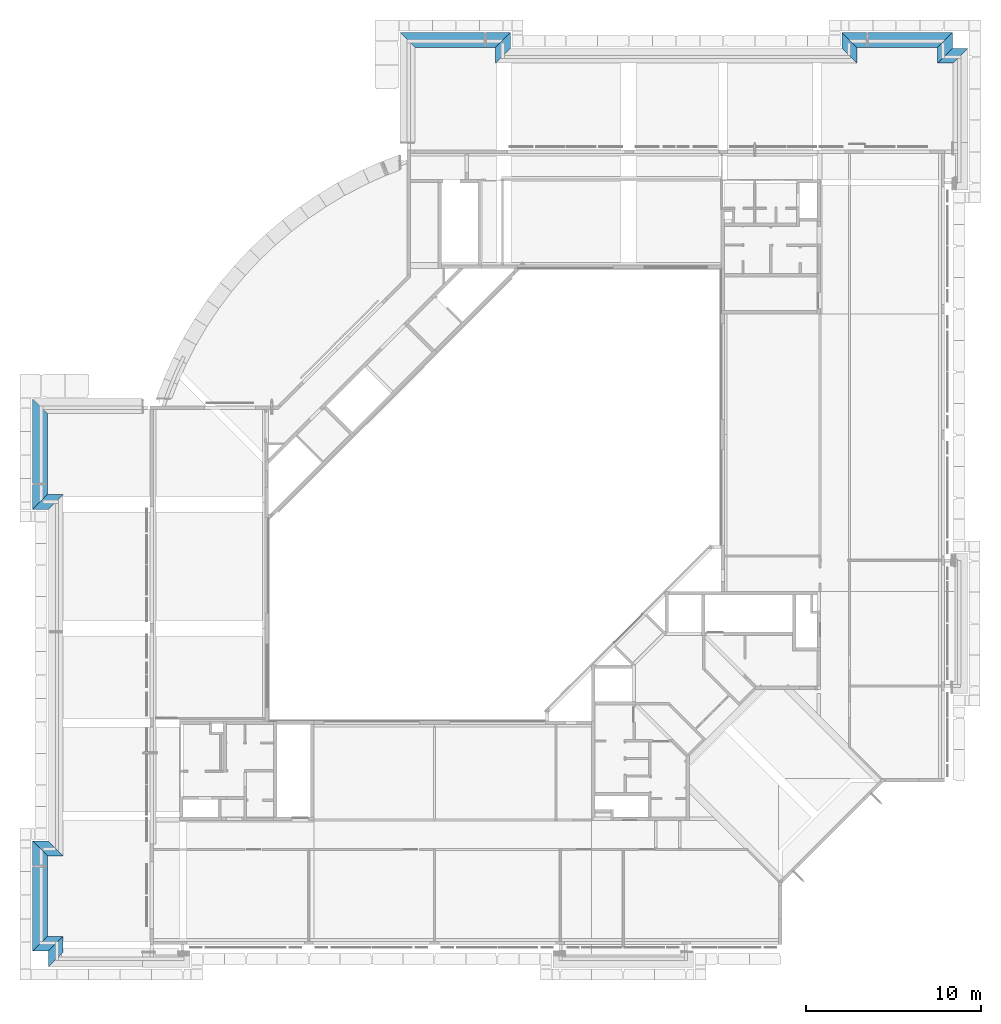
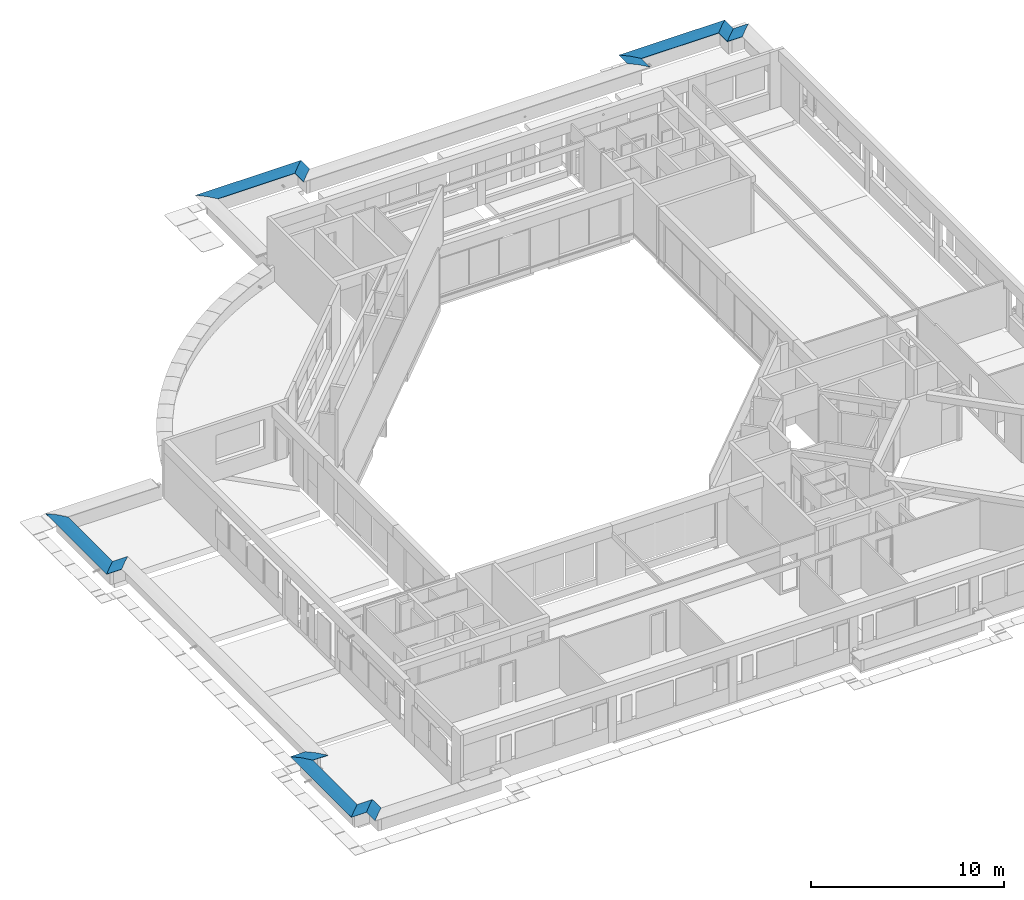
# One storey, part 18 of 38: 12 discrete accessories.
"""IFC4X3_ADD2 building model written with IfcOpenShell, lengths in millimetres."""

from ifc_helpers import new_model, si_unit, direction, frame, origin_with_axes, place, context, subcontext, project, spatial, polygons, source, transform, mapped, material, element, save


model = new_model("IFC4X3_ADD2")

# Units and contexts
model_context = context("Model", 3, precision=1e-05, world=origin_with_axes(), true_north=direction((0.0, 1.0)))
body_context = subcontext(model_context, "Body", "Model", "MODEL_VIEW")
ifc_project = project(units=[si_unit("LENGTHUNIT", "METRE", prefix="MILLI"), si_unit("AREAUNIT", "SQUARE_METRE"), si_unit("VOLUMEUNIT", "CUBIC_METRE"), si_unit("PLANEANGLEUNIT", "RADIAN"), si_unit("TIMEUNIT", "SECOND"), si_unit("MASSUNIT", "GRAM")], contexts=[model_context])

# Site, building, storey
site_placement = place(None, origin_with_axes())
site = spatial("IfcSite", under=ifc_project, at=site_placement, Name="Site", CompositionType="ELEMENT")
building_placement = place(site_placement, origin_with_axes())
building = spatial("IfcBuilding", under=site, at=building_placement, Name="IFC Building Story")
storey_placement = place(building_placement, frame((0.0, 0.0, 10800.0), z_axis=(0.0, 0.0, 1.0), x_axis=(1.0, 0.0, 0.0)))
storey = spatial("IfcBuildingStorey", under=building, at=storey_placement, Name="030", Elevation=10800.0)

# Discrete accessories
ifc_material = material(Name="BB_Metaal_Aluminium_Buitenschrijnwerk")
shared_shape_1 = source(origin_with_axes(), body_context, "Body", "Tessellation", [
    polygons([(375.000000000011, 374.999999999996, 35.1750423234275), (-46.4641064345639, -46.4641064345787, -1.6982890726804), (-31.999999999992, -32.0000000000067, -23.3944487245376), (-31.9999999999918, -32.0000000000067, -20.0000000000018), (-29.9999999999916, -30.0000000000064, -20.0000000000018), (-29.9999999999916, -30.0000000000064, -30.0000000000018), (-49.9999999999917, -50.0000000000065, -2.84559369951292e-12), (375.00000000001, 374.999999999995, 37.1826819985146), (800.000000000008, 799.999999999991, -2.84534618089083e-12), (800.000000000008, 799.999999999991, -30.0000000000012), (790.000000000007, 789.999999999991, -20.0000000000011), (791.41421356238, 791.414213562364, -18.5857864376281), (798.000000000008, 797.999999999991, -25.1715728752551), (798.000000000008, 797.999999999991, -1.83266234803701), (853.535893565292, -46.4641064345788, -1.69828907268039), (1274.99999999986, 374.999999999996, 35.1750423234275), (1697.99999999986, 797.999999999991, -1.83266234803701), (1697.99999999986, 797.999999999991, -25.1715728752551), (1691.41421356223, 791.414213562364, -18.5857864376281), (1689.99999999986, 789.999999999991, -20.0000000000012), (1699.99999999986, 799.999999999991, -30.0000000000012), (1699.99999999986, 799.999999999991, -2.84957613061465e-12), (1274.99999999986, 374.999999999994, 37.1826819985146), (849.999999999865, -50.0000000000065, -2.85704997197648e-12), (869.999999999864, -30.0000000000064, -30.0000000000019), (869.999999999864, -30.0000000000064, -20.0000000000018), (867.999999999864, -32.0000000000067, -20.0000000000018), (867.999999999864, -32.0000000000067, -23.3944487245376)], [[[3, 4, 5]], [[3, 5, 6]], [[6, 7, 2]], [[6, 2, 3]], [[7, 8, 1]], [[7, 1, 2]], [[14, 1, 8]], [[14, 8, 9]], [[9, 10, 13]], [[9, 13, 14]], [[10, 11, 12]], [[10, 12, 13]], [[18, 19, 20]], [[18, 20, 21]], [[21, 22, 17]], [[21, 17, 18]], [[22, 23, 16]], [[22, 16, 17]], [[23, 24, 15]], [[23, 15, 16]], [[28, 15, 24]], [[28, 24, 25]], [[25, 26, 28]], [[26, 27, 28]], [[2, 1, 16, 15]], [[4, 3, 28, 27]], [[3, 2, 15, 28]], [[6, 5, 26, 25]], [[8, 7, 24, 23]], [[7, 6, 25, 24]], [[9, 8, 23, 22]], [[5, 4, 27, 26]], [[1, 14, 17, 16]], [[10, 9, 22, 21]], [[11, 10, 21, 20]], [[12, 11, 20, 19]], [[13, 12, 19, 18]], [[14, 13, 18, 17]]]),
])
for number, where, z_axis, x_axis in (
    (1, (1385.0, 51150.0, 830.0), (0.0, 0.0, 1.0), (-1.0, 0.0, 0.0)),
    (2, (-5725.0, 52050.0, 830.0), (0.0, 0.0, 1.0), (0.0, -1.0, 0.0)),
):
    element("IfcDiscreteAccessory", number, at=place(storey_placement, frame(where, z_axis=z_axis, x_axis=x_axis)), inside=storey, material=ifc_material, Name="BB_05.10.23#02_AluminiumMuurafdek, 850 mm_GLI:XX_Geen", ObjectType="BB_05.10.23#02_AluminiumMuurafdek, 850 mm_GLI:XX_Geen", PredefinedType="USERDEFINED", context=body_context, shape_type="MappedRepresentation", body=[
        mapped(shared_shape_1, transform((0.0, 0.0, 0.0))),
    ])
shared_shape_2 = source(origin_with_axes(), body_context, "Body", "Tessellation", [
    polygons([(-374.999999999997, 374.999999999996, 35.1750423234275), (46.4641064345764, -46.4641064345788, -1.69828907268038), (32.0000000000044, -32.0000000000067, -23.3944487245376), (32.0000000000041, -32.0000000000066, -20.0000000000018), (30.000000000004, -30.0000000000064, -20.0000000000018), (30.0000000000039, -30.0000000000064, -30.0000000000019), (50.000000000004, -50.0000000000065, -2.85747255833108e-12), (-374.999999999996, 374.999999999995, 37.1826819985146), (-799.999999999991, 799.999999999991, -2.84957613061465e-12), (-799.999999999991, 799.999999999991, -30.0000000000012), (-789.999999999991, 789.999999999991, -20.0000000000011), (-791.414213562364, 791.414213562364, -18.5857864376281), (-797.999999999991, 797.999999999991, -25.1715728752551), (-797.999999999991, 797.999999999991, -1.832662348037), (946.464106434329, -46.4641064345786, -1.69828907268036), (524.999999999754, 374.999999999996, 35.1750423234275), (101.999999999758, 797.999999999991, -1.832662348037), (101.999999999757, 797.999999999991, -25.1715728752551), (108.585786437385, 791.414213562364, -18.5857864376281), (109.999999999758, 789.999999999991, -20.0000000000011), (99.9999999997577, 799.999999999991, -30.0000000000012), (99.9999999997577, 799.999999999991, -2.84111623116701e-12), (524.999999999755, 374.999999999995, 37.1826819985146), (949.999999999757, -50.0000000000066, -2.83352701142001e-12), (929.999999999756, -30.0000000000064, -30.0000000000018), (929.999999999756, -30.0000000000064, -20.0000000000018), (931.999999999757, -32.0000000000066, -20.0000000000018), (931.999999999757, -32.0000000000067, -23.3944487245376)], [[[3, 4, 5]], [[3, 5, 6]], [[6, 7, 2]], [[6, 2, 3]], [[7, 8, 1]], [[7, 1, 2]], [[14, 1, 8]], [[14, 8, 9]], [[9, 10, 13]], [[9, 13, 14]], [[10, 11, 12]], [[10, 12, 13]], [[18, 19, 20]], [[18, 20, 21]], [[21, 22, 17]], [[21, 17, 18]], [[22, 23, 16]], [[22, 16, 17]], [[23, 24, 15]], [[23, 15, 16]], [[28, 15, 24]], [[28, 24, 25]], [[25, 26, 28]], [[26, 27, 28]], [[2, 1, 16, 15]], [[4, 3, 28, 27]], [[3, 2, 15, 28]], [[6, 5, 26, 25]], [[8, 7, 24, 23]], [[7, 6, 25, 24]], [[9, 8, 23, 22]], [[5, 4, 27, 26]], [[1, 14, 17, 16]], [[10, 9, 22, 21]], [[11, 10, 21, 20]], [[12, 11, 20, 19]], [[13, 12, 19, 18]], [[14, 13, 18, 17]]]),
])
for number, where, z_axis, x_axis in (
    (3, (485.0, 51150.0, 830.0), (0.0, 0.0, 1.0), (0.0, 1.0, 0.0)),
    (4, (-24805.0, 51150.0, 830.0), (0.0, 0.0, 1.0), (0.0, 1.0, 0.0)),
):
    element("IfcDiscreteAccessory", number, at=place(storey_placement, frame(where, z_axis=z_axis, x_axis=x_axis)), inside=storey, material=ifc_material, Name="BB_05.10.23#02_AluminiumMuurafdek, 850 mm_GLI:XX_Geen", ObjectType="BB_05.10.23#02_AluminiumMuurafdek, 850 mm_GLI:XX_Geen", PredefinedType="USERDEFINED", context=body_context, shape_type="MappedRepresentation", body=[
        mapped(shared_shape_2, transform((0.0, 0.0, 0.0))),
    ])
shared_shape_3 = source(origin_with_axes(), body_context, "Body", "Tessellation", [
    polygons([(375.000000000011, 374.999999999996, 35.1750423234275), (-46.4641064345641, -46.4641064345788, -1.69828907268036), (-31.9999999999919, -32.0000000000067, -23.3944487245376), (-31.9999999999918, -32.0000000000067, -20.0000000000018), (-29.9999999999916, -30.0000000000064, -20.0000000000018), (-29.9999999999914, -30.0000000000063, -30.0000000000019), (-49.9999999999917, -50.0000000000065, -2.84559369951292e-12), (375.00000000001, 374.999999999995, 37.1826819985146), (800.000000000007, 799.999999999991, -2.83688628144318e-12), (800.000000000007, 799.999999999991, -30.0000000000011), (790.000000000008, 789.999999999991, -20.0000000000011), (791.414213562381, 791.414213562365, -18.5857864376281), (798.000000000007, 797.999999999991, -25.1715728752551), (798.000000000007, 797.999999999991, -1.83266234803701), (6256.46410643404, -46.4641064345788, -1.69828907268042), (5834.99999999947, 374.999999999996, 35.1750423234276), (5411.99999999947, 797.999999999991, -1.83266234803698), (5411.99999999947, 797.999999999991, -25.1715728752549), (5418.5857864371, 791.414213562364, -18.585786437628), (5419.99999999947, 789.999999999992, -20.0000000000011), (5409.99999999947, 799.999999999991, -30.0000000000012), (5409.99999999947, 799.999999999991, -2.84111623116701e-12), (5834.99999999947, 374.999999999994, 37.1826819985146), (6259.99999999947, -50.0000000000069, -3.04762517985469e-12), (6239.99999999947, -30.0000000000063, -30.000000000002), (6239.99999999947, -30.0000000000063, -20.0000000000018), (6241.99999999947, -32.0000000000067, -20.0000000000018), (6241.99999999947, -32.0000000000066, -23.3944487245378)], [[[3, 4, 5]], [[3, 5, 6]], [[6, 7, 2]], [[6, 2, 3]], [[7, 8, 1]], [[7, 1, 2]], [[14, 1, 8]], [[14, 8, 9]], [[9, 10, 13]], [[9, 13, 14]], [[10, 11, 12]], [[10, 12, 13]], [[18, 19, 20]], [[18, 20, 21]], [[21, 22, 17]], [[21, 17, 18]], [[22, 23, 16]], [[22, 16, 17]], [[23, 24, 15]], [[23, 15, 16]], [[28, 15, 24]], [[28, 24, 25]], [[25, 26, 28]], [[26, 27, 28]], [[2, 1, 16, 15]], [[4, 3, 28, 27]], [[3, 2, 15, 28]], [[6, 5, 26, 25]], [[8, 7, 24, 23]], [[7, 6, 25, 24]], [[9, 8, 23, 22]], [[5, 4, 27, 26]], [[1, 14, 17, 16]], [[10, 9, 22, 21]], [[11, 10, 21, 20]], [[12, 11, 20, 19]], [[13, 12, 19, 18]], [[14, 13, 18, 17]]]),
])
for number, where, z_axis, x_axis in (
    (5, (485.0, 52050.0, 830.0), (0.0, 0.0, 1.0), (-1.0, 0.0, 0.0)),
    (6, (-24805.0, 52050.0, 830.0), (0.0, 0.0, 1.0), (-1.0, 0.0, 0.0)),
):
    element("IfcDiscreteAccessory", number, at=place(storey_placement, frame(where, z_axis=z_axis, x_axis=x_axis)), inside=storey, material=ifc_material, Name="BB_05.10.23#02_AluminiumMuurafdek, 850 mm_GLI:XX_Geen", ObjectType="BB_05.10.23#02_AluminiumMuurafdek, 850 mm_GLI:XX_Geen", PredefinedType="USERDEFINED", context=body_context, shape_type="MappedRepresentation", body=[
        mapped(shared_shape_3, transform((0.0, 0.0, 0.0))),
    ])
shared_shape_4 = source(origin_with_axes(), body_context, "Body", "Tessellation", [
    polygons([(375.000000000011, -374.999999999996, 35.1750423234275), (798.000000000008, -797.999999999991, -1.83266234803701), (798.000000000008, -797.999999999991, -25.1715728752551), (791.41421356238, -791.414213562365, -18.5857864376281), (790.000000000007, -789.999999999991, -20.0000000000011), (800.000000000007, -799.999999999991, -30.0000000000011), (800.000000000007, -799.999999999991, -2.84111623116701e-12), (375.00000000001, -374.999999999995, 37.1826819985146), (-49.9999999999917, 50.0000000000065, -2.84559369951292e-12), (-29.9999999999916, 30.0000000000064, -30.0000000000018), (-29.9999999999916, 30.0000000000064, -20.0000000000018), (-31.999999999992, 32.0000000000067, -20.0000000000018), (-31.9999999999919, 32.0000000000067, -23.3944487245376), (-46.4641064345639, 46.4641064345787, -1.69828907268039), (853.535893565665, 46.4641064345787, -1.69828907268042), (868.000000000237, 32.0000000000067, -23.3944487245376), (868.000000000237, 32.0000000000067, -20.0000000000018), (870.000000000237, 30.0000000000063, -20.0000000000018), (870.000000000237, 30.0000000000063, -30.0000000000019), (850.000000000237, 50.0000000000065, -2.82757987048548e-12), (1275.00000000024, -374.999999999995, 37.1826819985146), (1700.00000000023, -799.999999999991, -2.84534618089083e-12), (1700.00000000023, -799.999999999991, -30.0000000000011), (1690.00000000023, -789.999999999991, -20.0000000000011), (1691.4142135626, -791.414213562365, -18.5857864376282), (1698.00000000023, -797.999999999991, -25.1715728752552), (1698.00000000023, -797.999999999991, -1.83266234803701), (1275.00000000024, -374.999999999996, 35.1750423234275)], [[[3, 4, 5]], [[3, 5, 6]], [[6, 7, 2]], [[6, 2, 3]], [[7, 8, 1]], [[7, 1, 2]], [[14, 1, 8]], [[14, 8, 9]], [[9, 10, 13]], [[9, 13, 14]], [[10, 11, 13]], [[11, 12, 13]], [[16, 17, 18]], [[16, 18, 19]], [[19, 20, 15]], [[19, 15, 16]], [[28, 15, 20]], [[28, 20, 21]], [[21, 22, 27]], [[21, 27, 28]], [[22, 23, 26]], [[22, 26, 27]], [[23, 24, 25]], [[23, 25, 26]], [[14, 15, 28, 1]], [[12, 17, 16, 13]], [[13, 16, 15, 14]], [[10, 19, 18, 11]], [[8, 21, 20, 9]], [[9, 20, 19, 10]], [[7, 22, 21, 8]], [[11, 18, 17, 12]], [[1, 28, 27, 2]], [[6, 23, 22, 7]], [[5, 24, 23, 6]], [[4, 25, 24, 5]], [[3, 26, 25, 4]], [[2, 27, 26, 3]]]),
])
for number, where, z_axis, x_axis in (
    (7, (-51150.0, -1320.0, 830.0), (0.0, 0.0, 1.0), (0.0, 1.0, 0.0)),
    (8, (-52050.0, 5790.0, 830.0), (0.0, 0.0, 1.0), (1.0, 0.0, 0.0)),
):
    element("IfcDiscreteAccessory", number, at=place(storey_placement, frame(where, z_axis=z_axis, x_axis=x_axis)), inside=storey, material=ifc_material, Name="BB_05.10.23#02_AluminiumMuurafdek, 850 mm_GLI:XX_Geen", ObjectType="BB_05.10.23#02_AluminiumMuurafdek, 850 mm_GLI:XX_Geen", PredefinedType="USERDEFINED", context=body_context, shape_type="MappedRepresentation", body=[
        mapped(shared_shape_4, transform((0.0, 0.0, 0.0))),
    ])
shared_shape_5 = source(origin_with_axes(), body_context, "Body", "Tessellation", [
    polygons([(-374.999999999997, -374.999999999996, 35.1750423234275), (-797.999999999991, -797.999999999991, -1.832662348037), (-797.999999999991, -797.999999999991, -25.1715728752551), (-791.414213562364, -791.414213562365, -18.5857864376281), (-789.999999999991, -789.999999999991, -20.0000000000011), (-799.999999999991, -799.999999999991, -30.0000000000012), (-799.999999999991, -799.999999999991, -2.84534618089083e-12), (-374.999999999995, -374.999999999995, 37.1826819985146), (50.000000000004, 50.0000000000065, -2.85747255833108e-12), (30.000000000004, 30.0000000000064, -30.0000000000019), (30.000000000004, 30.0000000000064, -20.0000000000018), (32.0000000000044, 32.0000000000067, -20.0000000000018), (32.0000000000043, 32.0000000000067, -23.3944487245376), (46.4641064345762, 46.4641064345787, -1.69828907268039), (946.464106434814, 46.4641064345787, -1.69828907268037), (932.000000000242, 32.0000000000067, -23.3944487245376), (932.000000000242, 32.0000000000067, -20.0000000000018), (930.000000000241, 30.0000000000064, -20.0000000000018), (930.000000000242, 30.0000000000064, -30.0000000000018), (950.000000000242, 50.0000000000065, -2.8620391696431e-12), (525.00000000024, -374.999999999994, 37.1826819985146), (100.000000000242, -799.999999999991, -2.84111623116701e-12), (100.000000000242, -799.999999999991, -30.0000000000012), (110.000000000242, -789.999999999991, -20.0000000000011), (108.585786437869, -791.414213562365, -18.5857864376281), (102.000000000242, -797.999999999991, -25.1715728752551), (102.000000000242, -797.999999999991, -1.832662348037), (525.000000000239, -374.999999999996, 35.1750423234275)], [[[3, 4, 5]], [[3, 5, 6]], [[6, 7, 2]], [[6, 2, 3]], [[7, 8, 1]], [[7, 1, 2]], [[14, 1, 8]], [[14, 8, 9]], [[9, 10, 13]], [[9, 13, 14]], [[10, 11, 13]], [[11, 12, 13]], [[16, 17, 18]], [[16, 18, 19]], [[19, 20, 15]], [[19, 15, 16]], [[28, 15, 20]], [[28, 20, 21]], [[21, 22, 27]], [[21, 27, 28]], [[22, 23, 26]], [[22, 26, 27]], [[23, 24, 25]], [[23, 25, 26]], [[14, 15, 28, 1]], [[12, 17, 16, 13]], [[13, 16, 15, 14]], [[10, 19, 18, 11]], [[8, 21, 20, 9]], [[9, 20, 19, 10]], [[7, 22, 21, 8]], [[11, 18, 17, 12]], [[1, 28, 27, 2]], [[6, 23, 22, 7]], [[5, 24, 23, 6]], [[4, 25, 24, 5]], [[3, 26, 25, 4]], [[2, 27, 26, 3]]]),
])
for number, where, z_axis, x_axis in (
    (9, (-51150.0, -420.0, 830.0), (0.0, 0.0, 1.0), (-1.0, 0.0, 0.0)),
    (10, (-51150.0, 24870.0, 830.0), (0.0, 0.0, 1.0), (-1.0, 0.0, 0.0)),
):
    element("IfcDiscreteAccessory", number, at=place(storey_placement, frame(where, z_axis=z_axis, x_axis=x_axis)), inside=storey, material=ifc_material, Name="BB_05.10.23#02_AluminiumMuurafdek, 850 mm_GLI:XX_Geen", ObjectType="BB_05.10.23#02_AluminiumMuurafdek, 850 mm_GLI:XX_Geen", PredefinedType="USERDEFINED", context=body_context, shape_type="MappedRepresentation", body=[
        mapped(shared_shape_5, transform((0.0, 0.0, 0.0))),
    ])
shared_shape_6 = source(origin_with_axes(), body_context, "Body", "Tessellation", [
    polygons([(375.000000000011, -374.999999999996, 35.1750423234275), (798.000000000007, -797.999999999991, -1.83266234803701), (798.000000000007, -797.999999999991, -25.1715728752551), (791.414213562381, -791.414213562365, -18.5857864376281), (790.000000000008, -789.999999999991, -20.0000000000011), (800.000000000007, -799.999999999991, -30.0000000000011), (800.000000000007, -799.999999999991, -2.83688628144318e-12), (375.00000000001, -374.999999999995, 37.1826819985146), (-49.9999999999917, 50.0000000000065, -2.84559369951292e-12), (-29.9999999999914, 30.0000000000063, -30.0000000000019), (-29.9999999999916, 30.0000000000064, -20.0000000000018), (-31.9999999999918, 32.0000000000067, -20.0000000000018), (-31.9999999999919, 32.0000000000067, -23.3944487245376), (-46.4641064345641, 46.4641064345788, -1.69828907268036), (6256.46410643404, 46.4641064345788, -1.69828907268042), (6241.99999999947, 32.0000000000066, -23.3944487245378), (6241.99999999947, 32.0000000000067, -20.0000000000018), (6239.99999999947, 30.0000000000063, -20.0000000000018), (6239.99999999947, 30.0000000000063, -30.000000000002), (6259.99999999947, 50.0000000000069, -3.04762517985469e-12), (5834.99999999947, -374.999999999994, 37.1826819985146), (5409.99999999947, -799.999999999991, -2.84111623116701e-12), (5409.99999999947, -799.999999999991, -30.0000000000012), (5419.99999999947, -789.999999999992, -20.0000000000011), (5418.5857864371, -791.414213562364, -18.585786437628), (5411.99999999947, -797.999999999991, -25.1715728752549), (5411.99999999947, -797.999999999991, -1.83266234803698), (5834.99999999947, -374.999999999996, 35.1750423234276)], [[[3, 4, 5]], [[3, 5, 6]], [[6, 7, 2]], [[6, 2, 3]], [[7, 8, 1]], [[7, 1, 2]], [[14, 1, 8]], [[14, 8, 9]], [[9, 10, 13]], [[9, 13, 14]], [[10, 11, 13]], [[11, 12, 13]], [[16, 17, 18]], [[16, 18, 19]], [[19, 20, 15]], [[19, 15, 16]], [[28, 15, 20]], [[28, 20, 21]], [[21, 22, 27]], [[21, 27, 28]], [[22, 23, 26]], [[22, 26, 27]], [[23, 24, 25]], [[23, 25, 26]], [[14, 15, 28, 1]], [[12, 17, 16, 13]], [[13, 16, 15, 14]], [[10, 19, 18, 11]], [[8, 21, 20, 9]], [[9, 20, 19, 10]], [[7, 22, 21, 8]], [[11, 18, 17, 12]], [[1, 28, 27, 2]], [[6, 23, 22, 7]], [[5, 24, 23, 6]], [[4, 25, 24, 5]], [[3, 26, 25, 4]], [[2, 27, 26, 3]]]),
])
for number, where, z_axis, x_axis in (
    (11, (-52050.0, -420.0, 830.0), (0.0, 0.0, 1.0), (0.0, 1.0, 0.0)),
    (12, (-52050.0, 24870.0, 830.0), (0.0, 0.0, 1.0), (0.0, 1.0, 0.0)),
):
    element("IfcDiscreteAccessory", number, at=place(storey_placement, frame(where, z_axis=z_axis, x_axis=x_axis)), inside=storey, material=ifc_material, Name="BB_05.10.23#02_AluminiumMuurafdek, 850 mm_GLI:XX_Geen", ObjectType="BB_05.10.23#02_AluminiumMuurafdek, 850 mm_GLI:XX_Geen", PredefinedType="USERDEFINED", context=body_context, shape_type="MappedRepresentation", body=[
        mapped(shared_shape_6, transform((0.0, 0.0, 0.0))),
    ])

save(model, "model.ifc")
